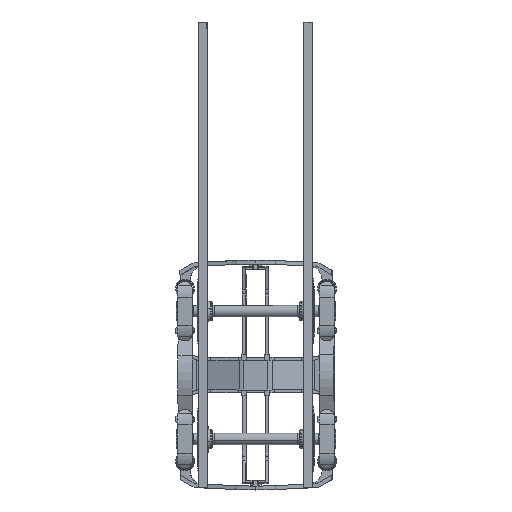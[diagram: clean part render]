
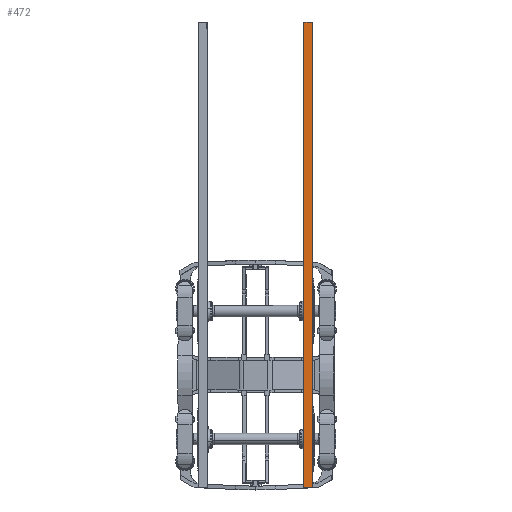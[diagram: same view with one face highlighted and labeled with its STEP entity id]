
A CAD part, front view. The second image highlights one B-rep face of the part: STEP entity #472.
In plain terms, the highlighted planar face has unit normal (0, -1, 0).
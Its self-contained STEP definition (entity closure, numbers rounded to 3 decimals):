
#206 = PLANE ( 'NONE',  #56775 ) ;
#267 = ORIENTED_EDGE ( 'NONE', *, *, #77591, .F. ) ;
#472 = ADVANCED_FACE ( 'NONE', ( #68214 ), #206, .T. ) ;
#2170 = DIRECTION ( 'NONE',  ( 0., 0., 1. ) ) ;
#3503 = DIRECTION ( 'NONE',  ( 1., 0., 0. ) ) ;
#3800 = LINE ( 'NONE', #10122, #38892 ) ;
#7697 = CARTESIAN_POINT ( 'NONE',  ( 53.882, 0., -550. ) ) ;
#10122 = CARTESIAN_POINT ( 'NONE',  ( 53.882, 0., 6000. ) ) ;
#13210 = LINE ( 'NONE', #49657, #44143 ) ;
#15618 = LINE ( 'NONE', #48341, #79581 ) ;
#16729 = ORIENTED_EDGE ( 'NONE', *, *, #71374, .T. ) ;
#17899 = CARTESIAN_POINT ( 'NONE',  ( -71.118, 0., 6000. ) ) ;
#21346 = CARTESIAN_POINT ( 'NONE',  ( 53.882, 0., 6000. ) ) ;
#22038 = CARTESIAN_POINT ( 'NONE',  ( -71.118, 0., -550. ) ) ;
#27212 = CARTESIAN_POINT ( 'NONE',  ( 53.882, 0., -550. ) ) ;
#29739 = DIRECTION ( 'NONE',  ( 1., 0., 0. ) ) ;
#37444 = VERTEX_POINT ( 'NONE', #17899 ) ;
#38892 = VECTOR ( 'NONE', #29739, 1000. ) ;
#41181 = EDGE_CURVE ( 'NONE', #62322, #37444, #15618, .T. ) ;
#44143 = VECTOR ( 'NONE', #3503, 1000. ) ;
#46884 = EDGE_CURVE ( 'NONE', #62322, #81667, #13210, .T. ) ;
#47124 = DIRECTION ( 'NONE',  ( 0., 0., 1. ) ) ;
#48341 = CARTESIAN_POINT ( 'NONE',  ( -71.118, 0., -550. ) ) ;
#49657 = CARTESIAN_POINT ( 'NONE',  ( 53.882, 0., -550. ) ) ;
#54655 = ORIENTED_EDGE ( 'NONE', *, *, #41181, .F. ) ;
#56775 = AXIS2_PLACEMENT_3D ( 'NONE', #7697, #60161, #59773 ) ;
#57386 = ORIENTED_EDGE ( 'NONE', *, *, #46884, .T. ) ;
#59773 = DIRECTION ( 'NONE',  ( 0., 0., -1. ) ) ;
#60161 = DIRECTION ( 'NONE',  ( 0., -1., 0. ) ) ;
#62322 = VERTEX_POINT ( 'NONE', #22038 ) ;
#66298 = LINE ( 'NONE', #27212, #79701 ) ;
#68214 = FACE_OUTER_BOUND ( 'NONE', #79609, .T. ) ;
#68422 = VERTEX_POINT ( 'NONE', #21346 ) ;
#68988 = CARTESIAN_POINT ( 'NONE',  ( 53.882, 0., -550. ) ) ;
#71374 = EDGE_CURVE ( 'NONE', #81667, #68422, #66298, .T. ) ;
#77591 = EDGE_CURVE ( 'NONE', #37444, #68422, #3800, .T. ) ;
#79581 = VECTOR ( 'NONE', #2170, 1000. ) ;
#79609 = EDGE_LOOP ( 'NONE', ( #16729, #267, #54655, #57386 ) ) ;
#79701 = VECTOR ( 'NONE', #47124, 1000. ) ;
#81667 = VERTEX_POINT ( 'NONE', #68988 ) ;
